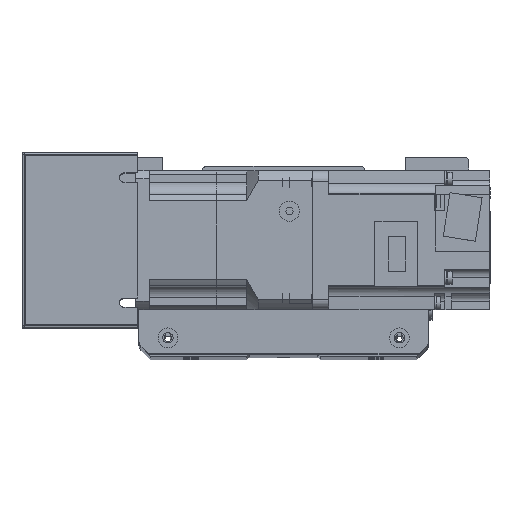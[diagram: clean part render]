
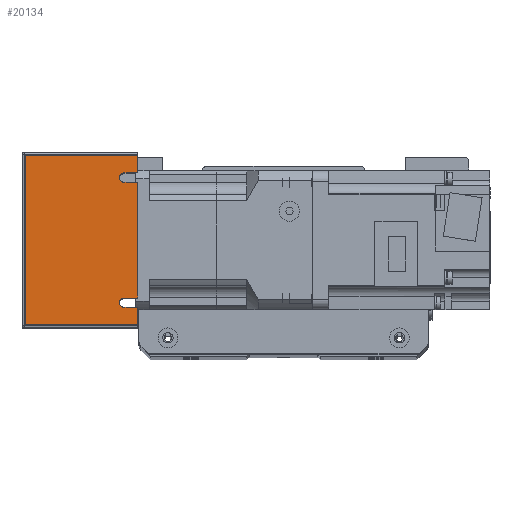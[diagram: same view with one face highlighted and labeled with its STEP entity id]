
A CAD part, top view. The second image highlights one B-rep face of the part: STEP entity #20134.
In plain terms, the highlighted planar face has unit normal (0, 0, 1) as drawn and (-1, 0, 0) by its records, which use the part's own axes.
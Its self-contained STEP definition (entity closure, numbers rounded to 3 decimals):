
#706=PLANE('',#22308);
#2036=LINE('',#34086,#3660);
#2045=LINE('',#34105,#3669);
#2052=LINE('',#34122,#3676);
#2060=LINE('',#34140,#3684);
#2073=LINE('',#34179,#3697);
#2078=LINE('',#34191,#3702);
#2082=LINE('',#34203,#3706);
#2085=LINE('',#34213,#3709);
#2086=LINE('',#34215,#3710);
#2087=LINE('',#34216,#3711);
#3660=VECTOR('',#27621,10.);
#3669=VECTOR('',#27634,10.);
#3676=VECTOR('',#27645,10.);
#3684=VECTOR('',#27657,10.);
#3697=VECTOR('',#27700,10.);
#3702=VECTOR('',#27711,10.);
#3706=VECTOR('',#27721,10.);
#3709=VECTOR('',#27732,10.);
#3710=VECTOR('',#27733,10.);
#3711=VECTOR('',#27734,10.);
#6048=FACE_OUTER_BOUND('',#7664,.T.);
#7664=EDGE_LOOP('',(#18085,#18086,#18087,#18088,#18089,#18090,#18091,#18092,
#18093,#18094,#18095,#18096));
#8812=CIRCLE('',#22286,2.);
#8817=CIRCLE('',#22294,2.);
#10509=VERTEX_POINT('',#34083);
#10510=VERTEX_POINT('',#34085);
#10516=VERTEX_POINT('',#34099);
#10518=VERTEX_POINT('',#34103);
#10525=VERTEX_POINT('',#34119);
#10526=VERTEX_POINT('',#34121);
#10533=VERTEX_POINT('',#34137);
#10534=VERTEX_POINT('',#34139);
#10545=VERTEX_POINT('',#34177);
#10554=VERTEX_POINT('',#34202);
#10557=VERTEX_POINT('',#34212);
#10558=VERTEX_POINT('',#34214);
#13068=EDGE_CURVE('',#10510,#10509,#2036,.T.);
#13077=EDGE_CURVE('',#10516,#10518,#2045,.T.);
#13084=EDGE_CURVE('',#10526,#10525,#2052,.T.);
#13092=EDGE_CURVE('',#10534,#10533,#2060,.T.);
#13098=EDGE_CURVE('',#10518,#10510,#8812,.T.);
#13109=EDGE_CURVE('',#10533,#10526,#8817,.T.);
#13114=EDGE_CURVE('',#10545,#10525,#2073,.T.);
#13121=EDGE_CURVE('',#10534,#10509,#2078,.T.);
#13127=EDGE_CURVE('',#10516,#10554,#2082,.T.);
#13132=EDGE_CURVE('',#10557,#10545,#2085,.T.);
#13133=EDGE_CURVE('',#10558,#10557,#2086,.T.);
#13134=EDGE_CURVE('',#10554,#10558,#2087,.T.);
#18085=ORIENTED_EDGE('',*,*,#13068,.T.);
#18086=ORIENTED_EDGE('',*,*,#13121,.F.);
#18087=ORIENTED_EDGE('',*,*,#13092,.T.);
#18088=ORIENTED_EDGE('',*,*,#13109,.T.);
#18089=ORIENTED_EDGE('',*,*,#13084,.T.);
#18090=ORIENTED_EDGE('',*,*,#13114,.F.);
#18091=ORIENTED_EDGE('',*,*,#13132,.F.);
#18092=ORIENTED_EDGE('',*,*,#13133,.F.);
#18093=ORIENTED_EDGE('',*,*,#13134,.F.);
#18094=ORIENTED_EDGE('',*,*,#13127,.F.);
#18095=ORIENTED_EDGE('',*,*,#13077,.T.);
#18096=ORIENTED_EDGE('',*,*,#13098,.T.);
#20134=ADVANCED_FACE('',(#6048),#706,.T.);
#22286=AXIS2_PLACEMENT_3D('',#34152,#27667,#27668);
#22294=AXIS2_PLACEMENT_3D('',#34170,#27689,#27690);
#22308=AXIS2_PLACEMENT_3D('',#34211,#27730,#27731);
#27621=DIRECTION('',(0.,0.,1.));
#27634=DIRECTION('',(0.,0.,-1.));
#27645=DIRECTION('',(0.,0.,1.));
#27657=DIRECTION('',(0.,0.,-1.));
#27667=DIRECTION('center_axis',(1.,0.,0.));
#27668=DIRECTION('ref_axis',(0.,0.,1.));
#27689=DIRECTION('center_axis',(1.,0.,0.));
#27690=DIRECTION('ref_axis',(0.,0.,1.));
#27700=DIRECTION('',(0.,-1.,0.));
#27711=DIRECTION('',(0.,-1.,0.));
#27721=DIRECTION('',(0.,-1.,0.));
#27730=DIRECTION('center_axis',(-1.,0.,0.));
#27731=DIRECTION('ref_axis',(0.,-1.,0.));
#27732=DIRECTION('',(0.,0.,1.));
#27733=DIRECTION('',(0.,1.,0.));
#27734=DIRECTION('',(0.,0.,-1.));
#34083=CARTESIAN_POINT('',(-91.,-25.,25.));
#34085=CARTESIAN_POINT('',(-91.,-25.,19.));
#34086=CARTESIAN_POINT('',(-91.,-25.,9.5));
#34099=CARTESIAN_POINT('',(-91.,-29.,25.));
#34103=CARTESIAN_POINT('',(-91.,-29.,19.));
#34105=CARTESIAN_POINT('',(-91.,-29.,15.178));
#34119=CARTESIAN_POINT('',(-91.,29.,25.));
#34121=CARTESIAN_POINT('',(-91.,29.,19.));
#34122=CARTESIAN_POINT('',(-91.,29.,9.5));
#34137=CARTESIAN_POINT('',(-91.,25.,19.));
#34139=CARTESIAN_POINT('',(-91.,25.,25.));
#34140=CARTESIAN_POINT('',(-91.,25.,15.178));
#34152=CARTESIAN_POINT('Origin',(-91.,-27.,19.));
#34170=CARTESIAN_POINT('Origin',(-91.,27.,19.));
#34177=CARTESIAN_POINT('',(-91.,37.,25.));
#34179=CARTESIAN_POINT('',(-91.,-38.,25.));
#34191=CARTESIAN_POINT('',(-91.,-38.,25.));
#34202=CARTESIAN_POINT('',(-91.,-37.,25.));
#34203=CARTESIAN_POINT('',(-91.,-38.,25.));
#34211=CARTESIAN_POINT('Origin',(-91.,38.,0.));
#34212=CARTESIAN_POINT('',(-91.,37.,-24.));
#34213=CARTESIAN_POINT('',(-91.,37.,0.));
#34214=CARTESIAN_POINT('',(-91.,-37.,-24.));
#34215=CARTESIAN_POINT('',(-91.,19.,-24.));
#34216=CARTESIAN_POINT('',(-91.,-37.,0.));
